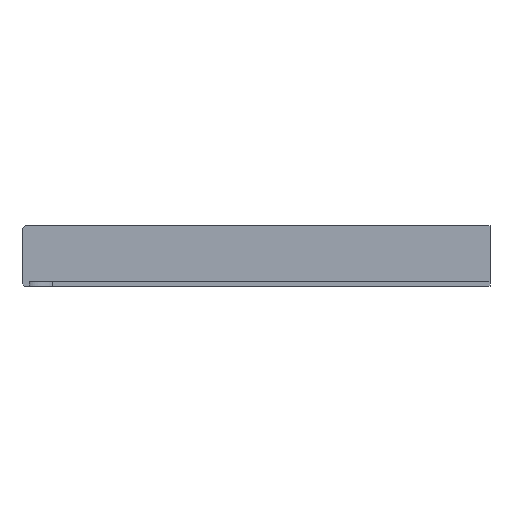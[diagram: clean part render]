
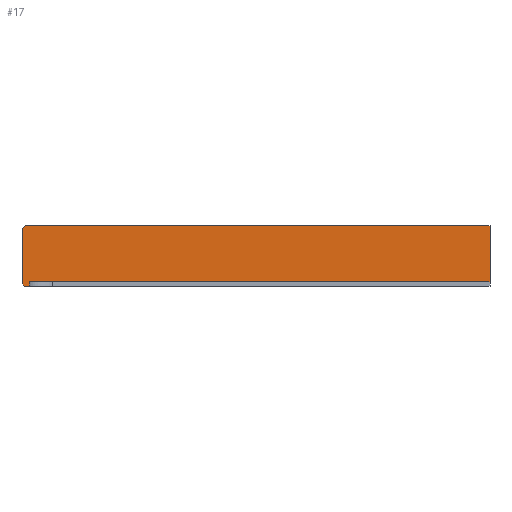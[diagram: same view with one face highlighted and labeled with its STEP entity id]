
A CAD part, front view. The second image highlights one B-rep face of the part: STEP entity #17.
In plain terms, the highlighted planar face has unit normal (0, -1, 0).
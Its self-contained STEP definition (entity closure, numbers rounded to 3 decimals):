
#17 = ADVANCED_FACE('',(#18),#32,.F.);
#18 = FACE_BOUND('',#19,.F.);
#19 = EDGE_LOOP('',(#20,#55,#81,#107,#133,#159,#185,#211));
#20 = ORIENTED_EDGE('',*,*,#21,.F.);
#21 = EDGE_CURVE('',#22,#24,#26,.T.);
#22 = VERTEX_POINT('',#23);
#23 = CARTESIAN_POINT('',(151.675,134.782,1.6));
#24 = VERTEX_POINT('',#25);
#25 = CARTESIAN_POINT('',(151.675,134.782,19.747));
#26 = SURFACE_CURVE('',#27,(#31,#43),.PCURVE_S1.);
#27 = LINE('',#28,#29);
#28 = CARTESIAN_POINT('',(151.675,134.782,-5.));
#29 = VECTOR('',#30,1.);
#30 = DIRECTION('',(0.,0.,1.));
#31 = PCURVE('',#32,#37);
#32 = PLANE('',#33);
#33 = AXIS2_PLACEMENT_3D('',#34,#35,#36);
#34 = CARTESIAN_POINT('',(-248.075,134.782,-5.));
#35 = DIRECTION('',(0.,1.,0.));
#36 = DIRECTION('',(1.,0.,0.));
#37 = DEFINITIONAL_REPRESENTATION('',(#38),#42);
#38 = LINE('',#39,#40);
#39 = CARTESIAN_POINT('',(399.75,0.));
#40 = VECTOR('',#41,1.);
#41 = DIRECTION('',(0.,-1.));
#42 = ( GEOMETRIC_REPRESENTATION_CONTEXT(2) 
PARAMETRIC_REPRESENTATION_CONTEXT() REPRESENTATION_CONTEXT('2D SPACE',''
  ) );
#43 = PCURVE('',#44,#49);
#44 = PLANE('',#45);
#45 = AXIS2_PLACEMENT_3D('',#46,#47,#48);
#46 = CARTESIAN_POINT('',(151.675,134.782,-5.));
#47 = DIRECTION('',(-1.,0.,0.));
#48 = DIRECTION('',(0.,1.,0.));
#49 = DEFINITIONAL_REPRESENTATION('',(#50),#54);
#50 = LINE('',#51,#52);
#51 = CARTESIAN_POINT('',(0.,0.));
#52 = VECTOR('',#53,1.);
#53 = DIRECTION('',(0.,-1.));
#54 = ( GEOMETRIC_REPRESENTATION_CONTEXT(2) 
PARAMETRIC_REPRESENTATION_CONTEXT() REPRESENTATION_CONTEXT('2D SPACE',''
  ) );
#55 = ORIENTED_EDGE('',*,*,#56,.F.);
#56 = EDGE_CURVE('',#57,#22,#59,.T.);
#57 = VERTEX_POINT('',#58);
#58 = CARTESIAN_POINT('',(2.4,134.782,1.6));
#59 = SURFACE_CURVE('',#60,(#64,#70),.PCURVE_S1.);
#60 = LINE('',#61,#62);
#61 = CARTESIAN_POINT('',(-144.138,134.782,1.6));
#62 = VECTOR('',#63,1.);
#63 = DIRECTION('',(1.,0.,0.));
#64 = PCURVE('',#32,#65);
#65 = DEFINITIONAL_REPRESENTATION('',(#66),#69);
#66 = B_SPLINE_CURVE_WITH_KNOTS('',1,(#67,#68),.UNSPECIFIED.,.F.,.F.,(2,
    2),(146.538,295.813),.PIECEWISE_BEZIER_KNOTS.);
#67 = CARTESIAN_POINT('',(250.475,-6.6));
#68 = CARTESIAN_POINT('',(399.75,-6.6));
#69 = ( GEOMETRIC_REPRESENTATION_CONTEXT(2) 
PARAMETRIC_REPRESENTATION_CONTEXT() REPRESENTATION_CONTEXT('2D SPACE',''
  ) );
#70 = PCURVE('',#71,#76);
#71 = PLANE('',#72);
#72 = AXIS2_PLACEMENT_3D('',#73,#74,#75);
#73 = CARTESIAN_POINT('',(-40.2,61.728,1.6));
#74 = DIRECTION('',(0.,0.,1.));
#75 = DIRECTION('',(1.,0.,0.));
#76 = DEFINITIONAL_REPRESENTATION('',(#77),#80);
#77 = B_SPLINE_CURVE_WITH_KNOTS('',1,(#78,#79),.UNSPECIFIED.,.F.,.F.,(2,
    2),(146.538,295.813),.PIECEWISE_BEZIER_KNOTS.);
#78 = CARTESIAN_POINT('',(42.6,73.053));
#79 = CARTESIAN_POINT('',(191.875,73.053));
#80 = ( GEOMETRIC_REPRESENTATION_CONTEXT(2) 
PARAMETRIC_REPRESENTATION_CONTEXT() REPRESENTATION_CONTEXT('2D SPACE',''
  ) );
#81 = ORIENTED_EDGE('',*,*,#82,.F.);
#82 = EDGE_CURVE('',#83,#57,#85,.T.);
#83 = VERTEX_POINT('',#84);
#84 = CARTESIAN_POINT('',(2.4,134.782,0.));
#85 = SURFACE_CURVE('',#86,(#90,#96),.PCURVE_S1.);
#86 = LINE('',#87,#88);
#87 = CARTESIAN_POINT('',(2.4,134.782,-3.));
#88 = VECTOR('',#89,1.);
#89 = DIRECTION('',(0.,-0.,1.));
#90 = PCURVE('',#32,#91);
#91 = DEFINITIONAL_REPRESENTATION('',(#92),#95);
#92 = B_SPLINE_CURVE_WITH_KNOTS('',1,(#93,#94),.UNSPECIFIED.,.F.,.F.,(2,
    2),(3.,21.547),.PIECEWISE_BEZIER_KNOTS.);
#93 = CARTESIAN_POINT('',(250.475,-5.));
#94 = CARTESIAN_POINT('',(250.475,-23.547));
#95 = ( GEOMETRIC_REPRESENTATION_CONTEXT(2) 
PARAMETRIC_REPRESENTATION_CONTEXT() REPRESENTATION_CONTEXT('2D SPACE',''
  ) );
#96 = PCURVE('',#97,#102);
#97 = PLANE('',#98);
#98 = AXIS2_PLACEMENT_3D('',#99,#100,#101);
#99 = CARTESIAN_POINT('',(2.4,10.,-1.));
#100 = DIRECTION('',(-1.,0.,0.));
#101 = DIRECTION('',(0.,1.,0.));
#102 = DEFINITIONAL_REPRESENTATION('',(#103),#106);
#103 = B_SPLINE_CURVE_WITH_KNOTS('',1,(#104,#105),.UNSPECIFIED.,.F.,.F.,
  (2,2),(3.,21.547),.PIECEWISE_BEZIER_KNOTS.);
#104 = CARTESIAN_POINT('',(124.782,-1.));
#105 = CARTESIAN_POINT('',(124.782,-19.547));
#106 = ( GEOMETRIC_REPRESENTATION_CONTEXT(2) 
PARAMETRIC_REPRESENTATION_CONTEXT() REPRESENTATION_CONTEXT('2D SPACE',''
  ) );
#107 = ORIENTED_EDGE('',*,*,#108,.F.);
#108 = EDGE_CURVE('',#109,#83,#111,.T.);
#109 = VERTEX_POINT('',#110);
#110 = CARTESIAN_POINT('',(0.8,134.782,0.));
#111 = SURFACE_CURVE('',#112,(#116,#122),.PCURVE_S1.);
#112 = LINE('',#113,#114);
#113 = CARTESIAN_POINT('',(-48.138,134.782,0.));
#114 = VECTOR('',#115,1.);
#115 = DIRECTION('',(1.,0.,0.));
#116 = PCURVE('',#32,#117);
#117 = DEFINITIONAL_REPRESENTATION('',(#118),#121);
#118 = B_SPLINE_CURVE_WITH_KNOTS('',1,(#119,#120),.UNSPECIFIED.,.F.,.F.,
  (2,2),(48.938,199.813),.PIECEWISE_BEZIER_KNOTS.);
#119 = CARTESIAN_POINT('',(248.875,-5.));
#120 = CARTESIAN_POINT('',(399.75,-5.));
#121 = ( GEOMETRIC_REPRESENTATION_CONTEXT(2) 
PARAMETRIC_REPRESENTATION_CONTEXT() REPRESENTATION_CONTEXT('2D SPACE',''
  ) );
#122 = PCURVE('',#123,#128);
#123 = PLANE('',#124);
#124 = AXIS2_PLACEMENT_3D('',#125,#126,#127);
#125 = CARTESIAN_POINT('',(151.8,136.61,0.));
#126 = DIRECTION('',(0.,0.,1.));
#127 = DIRECTION('',(1.,0.,-0.));
#128 = DEFINITIONAL_REPRESENTATION('',(#129),#132);
#129 = B_SPLINE_CURVE_WITH_KNOTS('',1,(#130,#131),.UNSPECIFIED.,.F.,.F.,
  (2,2),(48.938,199.813),.PIECEWISE_BEZIER_KNOTS.);
#130 = CARTESIAN_POINT('',(-151.,-1.828));
#131 = CARTESIAN_POINT('',(-0.125,-1.828));
#132 = ( GEOMETRIC_REPRESENTATION_CONTEXT(2) 
PARAMETRIC_REPRESENTATION_CONTEXT() REPRESENTATION_CONTEXT('2D SPACE',''
  ) );
#133 = ORIENTED_EDGE('',*,*,#134,.T.);
#134 = EDGE_CURVE('',#109,#135,#137,.T.);
#135 = VERTEX_POINT('',#136);
#136 = CARTESIAN_POINT('',(0.,134.782,0.8));
#137 = SURFACE_CURVE('',#138,(#142,#148),.PCURVE_S1.);
#138 = LINE('',#139,#140);
#139 = CARTESIAN_POINT('',(-60.369,134.782,61.169));
#140 = VECTOR('',#141,1.);
#141 = DIRECTION('',(-0.707,0.,0.707));
#142 = PCURVE('',#32,#143);
#143 = DEFINITIONAL_REPRESENTATION('',(#144),#147);
#144 = B_SPLINE_CURVE_WITH_KNOTS('',1,(#145,#146),.UNSPECIFIED.,.F.,.F.,
  (2,2),(-86.506,-85.374),.PIECEWISE_BEZIER_KNOTS.);
#145 = CARTESIAN_POINT('',(248.875,-5.));
#146 = CARTESIAN_POINT('',(248.075,-5.8));
#147 = ( GEOMETRIC_REPRESENTATION_CONTEXT(2) 
PARAMETRIC_REPRESENTATION_CONTEXT() REPRESENTATION_CONTEXT('2D SPACE',''
  ) );
#148 = PCURVE('',#149,#154);
#149 = PLANE('',#150);
#150 = AXIS2_PLACEMENT_3D('',#151,#152,#153);
#151 = CARTESIAN_POINT('',(0.4,10.,0.4));
#152 = DIRECTION('',(0.707,0.,0.707));
#153 = DIRECTION('',(0.,-1.,-0.));
#154 = DEFINITIONAL_REPRESENTATION('',(#155),#158);
#155 = B_SPLINE_CURVE_WITH_KNOTS('',1,(#156,#157),.UNSPECIFIED.,.F.,.F.,
  (2,2),(-86.506,-85.374),.PIECEWISE_BEZIER_KNOTS.);
#156 = CARTESIAN_POINT('',(-124.782,0.566));
#157 = CARTESIAN_POINT('',(-124.782,-0.566));
#158 = ( GEOMETRIC_REPRESENTATION_CONTEXT(2) 
PARAMETRIC_REPRESENTATION_CONTEXT() REPRESENTATION_CONTEXT('2D SPACE',''
  ) );
#159 = ORIENTED_EDGE('',*,*,#160,.T.);
#160 = EDGE_CURVE('',#135,#161,#163,.T.);
#161 = VERTEX_POINT('',#162);
#162 = CARTESIAN_POINT('',(0.,134.782,18.747));
#163 = SURFACE_CURVE('',#164,(#168,#174),.PCURVE_S1.);
#164 = LINE('',#165,#166);
#165 = CARTESIAN_POINT('',(0.,134.782,-2.5));
#166 = VECTOR('',#167,1.);
#167 = DIRECTION('',(0.,-0.,1.));
#168 = PCURVE('',#32,#169);
#169 = DEFINITIONAL_REPRESENTATION('',(#170),#173);
#170 = B_SPLINE_CURVE_WITH_KNOTS('',1,(#171,#172),.UNSPECIFIED.,.F.,.F.,
  (2,2),(3.3,21.247),.PIECEWISE_BEZIER_KNOTS.);
#171 = CARTESIAN_POINT('',(248.075,-5.8));
#172 = CARTESIAN_POINT('',(248.075,-23.747));
#173 = ( GEOMETRIC_REPRESENTATION_CONTEXT(2) 
PARAMETRIC_REPRESENTATION_CONTEXT() REPRESENTATION_CONTEXT('2D SPACE',''
  ) );
#174 = PCURVE('',#175,#180);
#175 = PLANE('',#176);
#176 = AXIS2_PLACEMENT_3D('',#177,#178,#179);
#177 = CARTESIAN_POINT('',(0.,10.,0.));
#178 = DIRECTION('',(-1.,0.,0.));
#179 = DIRECTION('',(0.,1.,0.));
#180 = DEFINITIONAL_REPRESENTATION('',(#181),#184);
#181 = B_SPLINE_CURVE_WITH_KNOTS('',1,(#182,#183),.UNSPECIFIED.,.F.,.F.,
  (2,2),(3.3,21.247),.PIECEWISE_BEZIER_KNOTS.);
#182 = CARTESIAN_POINT('',(124.782,-0.8));
#183 = CARTESIAN_POINT('',(124.782,-18.747));
#184 = ( GEOMETRIC_REPRESENTATION_CONTEXT(2) 
PARAMETRIC_REPRESENTATION_CONTEXT() REPRESENTATION_CONTEXT('2D SPACE',''
  ) );
#185 = ORIENTED_EDGE('',*,*,#186,.F.);
#186 = EDGE_CURVE('',#187,#161,#189,.T.);
#187 = VERTEX_POINT('',#188);
#188 = CARTESIAN_POINT('',(1.,134.782,19.747));
#189 = SURFACE_CURVE('',#190,(#194,#200),.PCURVE_S1.);
#190 = LINE('',#191,#192);
#191 = CARTESIAN_POINT('',(-67.705,134.782,
    -48.959));
#192 = VECTOR('',#193,1.);
#193 = DIRECTION('',(-0.707,0.,-0.707));
#194 = PCURVE('',#32,#195);
#195 = DEFINITIONAL_REPRESENTATION('',(#196),#199);
#196 = B_SPLINE_CURVE_WITH_KNOTS('',1,(#197,#198),.UNSPECIFIED.,.F.,.F.,
  (2,2),(-97.164,-95.75),.PIECEWISE_BEZIER_KNOTS.);
#197 = CARTESIAN_POINT('',(249.075,-24.747));
#198 = CARTESIAN_POINT('',(248.075,-23.747));
#199 = ( GEOMETRIC_REPRESENTATION_CONTEXT(2) 
PARAMETRIC_REPRESENTATION_CONTEXT() REPRESENTATION_CONTEXT('2D SPACE',''
  ) );
#200 = PCURVE('',#201,#206);
#201 = PLANE('',#202);
#202 = AXIS2_PLACEMENT_3D('',#203,#204,#205);
#203 = CARTESIAN_POINT('',(0.5,10.,19.247));
#204 = DIRECTION('',(-0.707,0.,0.707));
#205 = DIRECTION('',(-0.,-1.,-0.));
#206 = DEFINITIONAL_REPRESENTATION('',(#207),#210);
#207 = B_SPLINE_CURVE_WITH_KNOTS('',1,(#208,#209),.UNSPECIFIED.,.F.,.F.,
  (2,2),(-97.164,-95.75),.PIECEWISE_BEZIER_KNOTS.);
#208 = CARTESIAN_POINT('',(-124.782,0.707));
#209 = CARTESIAN_POINT('',(-124.782,-0.707));
#210 = ( GEOMETRIC_REPRESENTATION_CONTEXT(2) 
PARAMETRIC_REPRESENTATION_CONTEXT() REPRESENTATION_CONTEXT('2D SPACE',''
  ) );
#211 = ORIENTED_EDGE('',*,*,#212,.T.);
#212 = EDGE_CURVE('',#187,#24,#213,.T.);
#213 = SURFACE_CURVE('',#214,(#218,#224),.PCURVE_S1.);
#214 = LINE('',#215,#216);
#215 = CARTESIAN_POINT('',(-48.138,134.782,19.747));
#216 = VECTOR('',#217,1.);
#217 = DIRECTION('',(1.,0.,0.));
#218 = PCURVE('',#32,#219);
#219 = DEFINITIONAL_REPRESENTATION('',(#220),#223);
#220 = B_SPLINE_CURVE_WITH_KNOTS('',1,(#221,#222),.UNSPECIFIED.,.F.,.F.,
  (2,2),(49.138,199.813),.PIECEWISE_BEZIER_KNOTS.);
#221 = CARTESIAN_POINT('',(249.075,-24.747));
#222 = CARTESIAN_POINT('',(399.75,-24.747));
#223 = ( GEOMETRIC_REPRESENTATION_CONTEXT(2) 
PARAMETRIC_REPRESENTATION_CONTEXT() REPRESENTATION_CONTEXT('2D SPACE',''
  ) );
#224 = PCURVE('',#225,#230);
#225 = PLANE('',#226);
#226 = AXIS2_PLACEMENT_3D('',#227,#228,#229);
#227 = CARTESIAN_POINT('',(151.8,136.61,19.747));
#228 = DIRECTION('',(0.,0.,1.));
#229 = DIRECTION('',(1.,0.,-0.));
#230 = DEFINITIONAL_REPRESENTATION('',(#231),#234);
#231 = B_SPLINE_CURVE_WITH_KNOTS('',1,(#232,#233),.UNSPECIFIED.,.F.,.F.,
  (2,2),(49.138,199.813),.PIECEWISE_BEZIER_KNOTS.);
#232 = CARTESIAN_POINT('',(-150.8,-1.828));
#233 = CARTESIAN_POINT('',(-0.125,-1.828));
#234 = ( GEOMETRIC_REPRESENTATION_CONTEXT(2) 
PARAMETRIC_REPRESENTATION_CONTEXT() REPRESENTATION_CONTEXT('2D SPACE',''
  ) );
